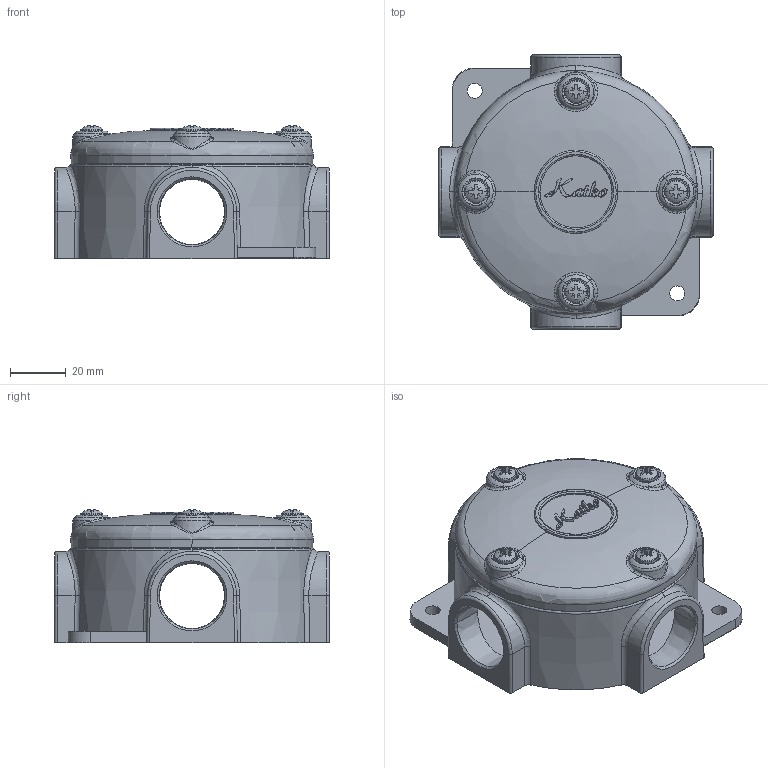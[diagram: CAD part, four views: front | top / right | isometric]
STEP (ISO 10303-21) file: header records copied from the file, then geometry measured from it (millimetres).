
FILE_DESCRIPTION((''),'2;1');
FILE_NAME('1581722_KLA_JB4_ASM','2026-05-28T15:06:09',('ReijoKariniemi'),(''),'CREO PARAMETRIC BY PTC INC, 2025323','CREO PARAMETRIC BY PTC INC, 2025323','');
FILE_SCHEMA(('CONFIG_CONTROL_DESIGN'));
Length unit declared in the file: millimetre
Products named in the file (3): 1581722_1_1; 1581722_1_6; 1581722_KLA_JB4_ASM
Assembly tree (2 placements, depth 2):
  1581722_KLA_JB4_ASM
    1581722_1_1
    1581722_1_6
Bounding box: 99 x 99 x 47.91 mm (x, y, z)
Volume: 97218.2 mm3; surface area: 53272.5 mm2
Topology: 2 solids, 2 shells, 450 faces, 1241 edges, 820 vertices
Faces by surface type: plane 167, bspline 104, cylinder 74, cone 52, torus 37, sphere 8, revolution 8
Entity records: 35321 total; most frequent: CARTESIAN_POINT 24448, ORIENTED_EDGE 2474, DIRECTION 1995, EDGE_CURVE 1237, VERTEX_POINT 820, AXIS2_PLACEMENT_3D 799, EDGE_LOOP 499, CIRCLE 456
